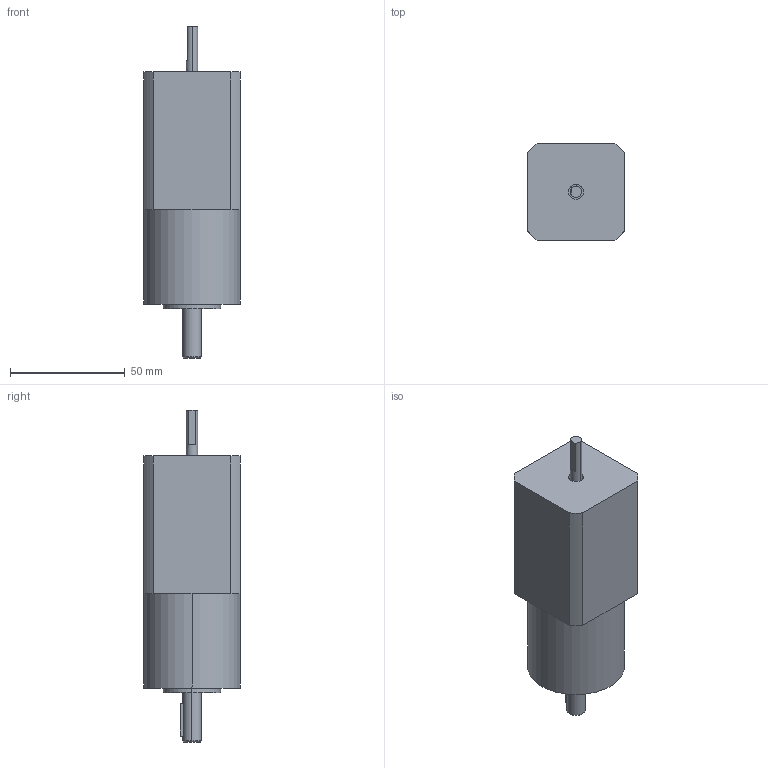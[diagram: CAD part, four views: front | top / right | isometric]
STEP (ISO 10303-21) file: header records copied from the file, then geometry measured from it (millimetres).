
FILE_DESCRIPTION (( 'STEP AP203' ), '1' );
FILE_NAME ('42CM08-SZ-RD10.STEP', '2021-04-23T05:45:15', ( 'Owner' ), ( 'Organization' ), 'SwSTEP 2.0', 'SolidWorks 2018', '' );
FILE_SCHEMA (( 'CONFIG_CONTROL_DESIGN' ));
Length unit declared in the file: millimetre
Products named in the file (1): 42CM08-SZ-RD10
Bounding box: 42 x 42 x 144.5 mm (x, y, z)
Volume: 162983.2 mm3; surface area: 19908.9 mm2
Topology: 1 solids, 1 shells, 56 faces, 128 edges, 76 vertices
Faces by surface type: cylinder 24, plane 22, cone 10
Entity records: 1601 total; most frequent: DIRECTION 290, CARTESIAN_POINT 253, ORIENTED_EDGE 240, EDGE_CURVE 120, AXIS2_PLACEMENT_3D 113, VERTEX_POINT 76, EDGE_LOOP 66, LINE 64
